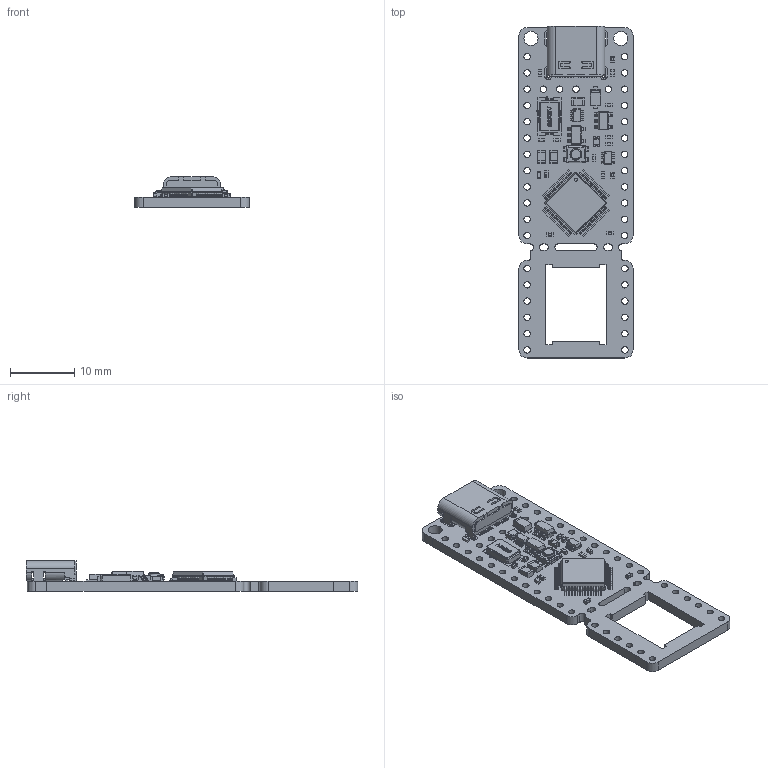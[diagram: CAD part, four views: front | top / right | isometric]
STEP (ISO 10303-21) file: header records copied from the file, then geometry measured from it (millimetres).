
FILE_DESCRIPTION(/* description */ (''),/* implementation_level */ '2;1');
FILE_NAME(/* name */ 'E:/Dropbox/OLKB/stp/proton-c.step',/* time_stamp */ '2020-01-01T12:42:18-05:00',/* author */ (''),/* organization */ (''),/* preprocessor_version */ 'ST-DEVELOPER v18',/* originating_system */ 'Autodesk Translation Framework v8.12.0.6',/* authorisation */ '');
FILE_SCHEMA (('AUTOMOTIVE_DESIGN { 1 0 10303 214 3 1 1 }'));
Products named in the file (33): MicroPro1; Board_Geoms; Pcb; Step_Models; Top; 105450-0101_; R_0402_; C_0402_; SOT_23_5_; ABM3B_; C_0402_001; C_0805_; C_0402_002; C_0402_003; C_0402_004; C_0402_005; C_0402_006; C_0402_007; C_0805_001; C_0805_002; C_0402_008; APHHS1005_sp_; R_0402_001; R_0402_002; R_0402_003; C_0402_009; D_0603_; SOT_363_SC_70_6_; PTS830GM140SMTRLFS_; SOT_23_5_001; SOT_363_SC_70_6_001; D_SOD_123F_; LQFP-48_7x7mm_Pitch0
Assembly tree (32 placements, depth 4):
  MicroPro1
    Board_Geoms
      Pcb
    Step_Models
      Top
        105450-0101_
        R_0402_
        C_0402_
        SOT_23_5_
        ABM3B_
        C_0402_001
        C_0805_
        C_0402_002
        C_0402_003
        C_0402_004
        C_0402_005
        C_0402_006
        C_0402_007
        C_0805_001
        C_0805_002
        C_0402_008
        APHHS1005_sp_
        R_0402_001
        R_0402_002
        R_0402_003
        C_0402_009
        D_0603_
        SOT_363_SC_70_6_
        PTS830GM140SMTRLFS_
        SOT_23_5_001
        SOT_363_SC_70_6_001
        D_SOD_123F_
        LQFP-48_7x7mm_Pitch0
Bounding box: 17.78 x 51.75 x 4.81 mm (x, y, z)
Volume: 1437.7 mm3; surface area: 3051.4 mm2
Topology: 41 solids, 49 shells, 3302 faces, 8841 edges, 5736 vertices
Faces by surface type: plane 2310, cylinder 822, bspline 154, sphere 7, torus 5, cone 4
Full cylindrical faces by diameter (mm): 0.15 x2, 0.5 x1, 0.6 x1, 1 x40, 1.3 x1, 1.7 x1, 1.85 x1, 2.2 x2
Entity records: 113930 total; most frequent: CARTESIAN_POINT 26477, ORIENTED_EDGE 17652, DIRECTION 16729, EDGE_CURVE 8839, LINE 6747, VECTOR 6747, VERTEX_POINT 5736, AXIS2_PLACEMENT_3D 4991
